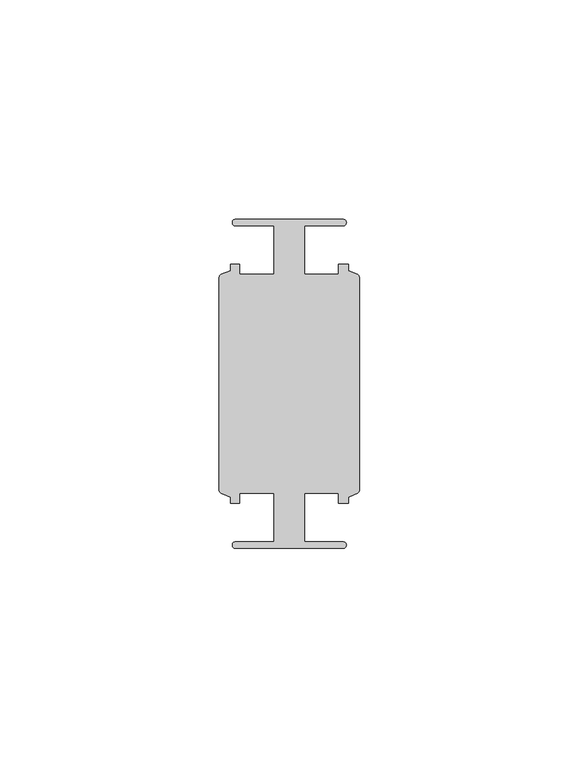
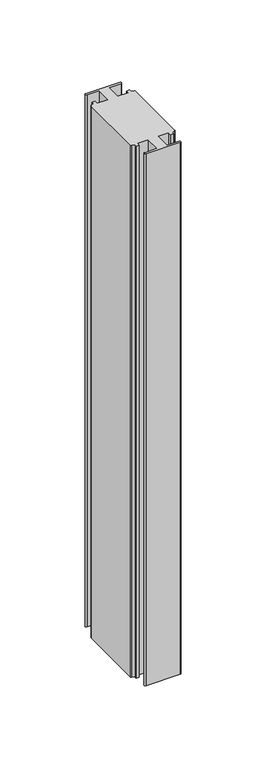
"""IFC4 building model written with IfcOpenShell, lengths in millimetres: member geometry, Прямоугольный импост : 4-AMG-2-Профиль 26Х75 Средний."""

from ifc_helpers import new_model, si_unit, point, frame, frame_2d, origin, place, context, project, spatial, polyline, circle_curve, trimmed, segment, composite_curve, outline, extrude, source, transform, mapped, element, save


def member_75da5831(model_context):
    return source(origin(), model_context, "Body", "SweptSolid", [
        extrude(outline(composite_curve([segment(trimmed(circle_curve(frame_2d((12.2876562, 36.75)), 0.75), [point((12.2876562, 37.5))], [point((12.2876562, 36.0))], False, "CARTESIAN"), True, "CONTINUOUS"), segment(polyline([(12.2876562, 36.0), (3.5376562, 36.0), (3.5376562, 25.0), (11.2593767, 25.0), (11.2593767, 27.25), (13.4846403, 27.25), (13.4846403, 25.836597), (15.5572539, 24.9333875)]), True, "CONTINUOUS"), segment(trimmed(circle_curve(frame_2d((15.2376562, 24.2)), 0.8), [point((15.5572539, 24.9333875))], [point((16.0376562, 24.2))], False, "CARTESIAN"), True, "CONTINUOUS"), segment(polyline([(16.0376562, 24.2), (16.0376562, -24.2)]), True, "CONTINUOUS"), segment(trimmed(circle_curve(frame_2d((15.2376562, -24.2)), 0.8), [point((16.0376562, -24.2))], [point((15.5572539, -24.9333875))], False, "CARTESIAN"), True, "CONTINUOUS"), segment(polyline([(15.5572539, -24.9333875), (13.4846403, -25.836597), (13.4846403, -27.25), (11.2593767, -27.25), (11.2593767, -24.9914758), (3.5376562, -24.9914758), (3.5376562, -36.0), (12.2876562, -36.0)]), True, "CONTINUOUS"), segment(trimmed(circle_curve(frame_2d((12.2876562, -36.75)), 0.75), [point((12.2876562, -36.0))], [point((12.2876562, -37.5))], False, "CARTESIAN"), True, "CONTINUOUS"), segment(polyline([(12.2876562, -37.5), (-12.2123438, -37.5)]), True, "CONTINUOUS"), segment(trimmed(circle_curve(frame_2d((-12.2123438, -36.75)), 0.75), [point((-12.2123438, -37.5))], [point((-12.2123438, -36.0))], False, "CARTESIAN"), True, "CONTINUOUS"), segment(polyline([(-12.2123438, -36.0), (-3.4623438, -36.0), (-3.4623438, -24.9913353), (-11.2593767, -24.9913353), (-11.2593767, -27.25), (-13.4093278, -27.25), (-13.4093278, -25.836597), (-15.4819415, -24.9333875)]), True, "CONTINUOUS"), segment(trimmed(circle_curve(frame_2d((-15.1623438, -24.2)), 0.8), [point((-15.4819415, -24.9333875))], [point((-15.9623438, -24.2))], False, "CARTESIAN"), True, "CONTINUOUS"), segment(polyline([(-15.9623438, -24.2), (-15.9623438, 24.2)]), True, "CONTINUOUS"), segment(trimmed(circle_curve(frame_2d((-15.1623438, 24.2)), 0.8), [point((-15.9623438, 24.2))], [point((-15.4819415, 24.9333875))], False, "CARTESIAN"), True, "CONTINUOUS"), segment(polyline([(-15.4819415, 24.9333875), (-13.4093278, 25.836597), (-13.4093278, 27.25), (-11.2593767, 27.25), (-11.2593767, 25.0), (-3.4623438, 25.0), (-3.4623438, 36.0), (-12.2123438, 36.0)]), True, "CONTINUOUS"), segment(trimmed(circle_curve(frame_2d((-12.2123438, 36.75)), 0.75), [point((-12.2123438, 36.0))], [point((-12.2123438, 37.5))], False, "CARTESIAN"), True, "CONTINUOUS"), segment(polyline([(-12.2123438, 37.5), (12.2876562, 37.5)]), True, "CONTINUOUS")], self_intersect=False)), frame((0.0, 0.0, -402.8623438), z_axis=(0.0, 0.0, 1.0), x_axis=(1.0, 0.0, 0.0)), (0.0, 0.0, 1.0), 402.8623438),
    ])


if __name__ == "__main__":
    model = new_model("IFC4")
    model_context = context("Model", 3, world=origin())
    ifc_project = project(units=[si_unit("LENGTHUNIT", "METRE", prefix="MILLI")], contexts=[model_context])
    site = spatial("IfcSite", under=ifc_project)
    building = spatial("IfcBuilding", under=site)
    placement = place(None, origin())
    member_shape = member_75da5831(model_context)
    element("IfcMember", 1, ObjectType="Прямоугольный импост : 4-AMG-2-Профиль 26Х75 Средний", at=placement, inside=building, context=model_context, shape_type="MappedRepresentation", body=[
        mapped(member_shape, transform((0.0, 0.0, 0.0), x_axis=(1.0, 0.0, 0.0), y_axis=(0.0, 1.0, 0.0), z_axis=(0.0, 0.0, 1.0))),
    ])
    save(model, "model.ifc")
